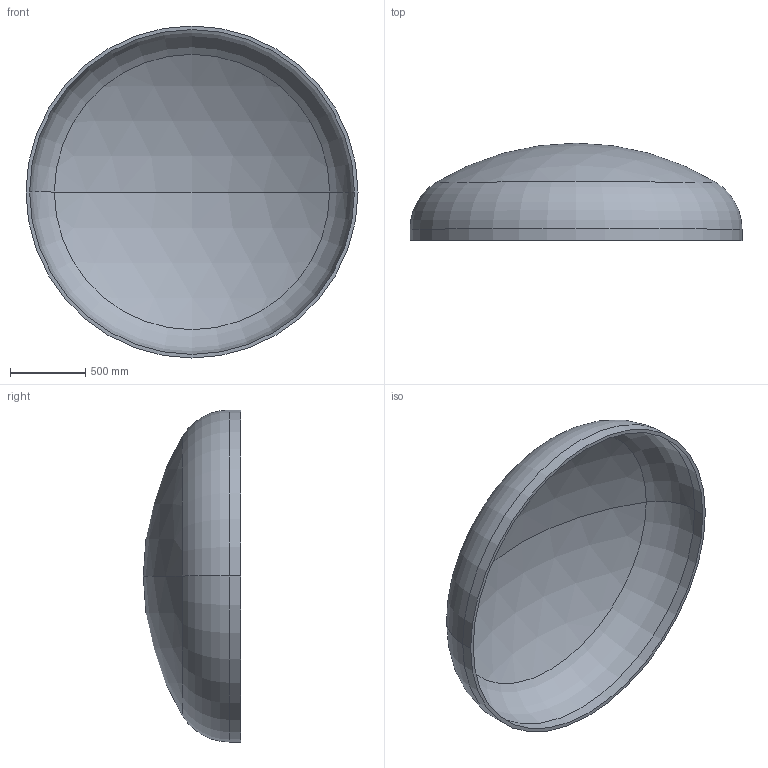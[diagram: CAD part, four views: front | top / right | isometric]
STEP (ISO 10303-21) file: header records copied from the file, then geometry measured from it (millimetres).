
FILE_DESCRIPTION (( 'STEP AP203' ), '1' );
FILE_NAME ('DIN 28013 Korbbogenform_-_Boden DIN 28013 - 2200 x 75 - I - s=24.step', '2016-07-01T14:26:42', ( '' ), ( '' ), 'SwSTEP 2.0', 'SolidWorks 2013', '' );
FILE_SCHEMA (( 'CONFIG_CONTROL_DESIGN' ));
Length unit declared in the file: millimetre
Products named in the file (1): DIN 28013 Korbbogenform_-_Boden DIN 28013 - 2200 x 75 - I - s=24
Bounding box: 2200 x 644.63 x 2200 mm (x, y, z)
Volume: 136936636.5 mm3; surface area: 11576655.2 mm2
Topology: 1 solids, 1 shells, 13 faces, 24 edges, 14 vertices
Faces by surface type: torus 4, cylinder 4, sphere 4, plane 1
Entity records: 407 total; most frequent: DIRECTION 72, CARTESIAN_POINT 52, ORIENTED_EDGE 48, AXIS2_PLACEMENT_3D 34, EDGE_CURVE 24, CIRCLE 20, EDGE_LOOP 14, VERTEX_POINT 14
